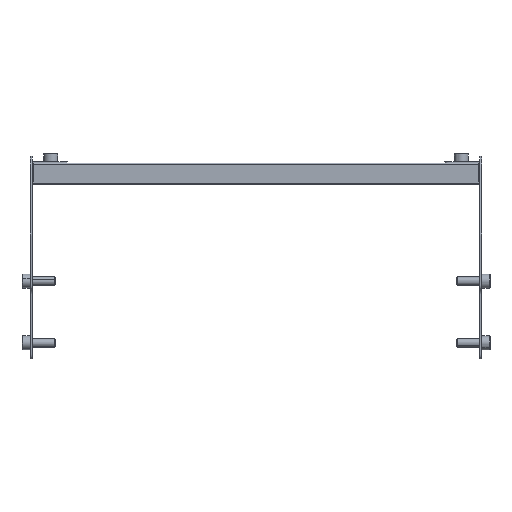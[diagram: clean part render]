
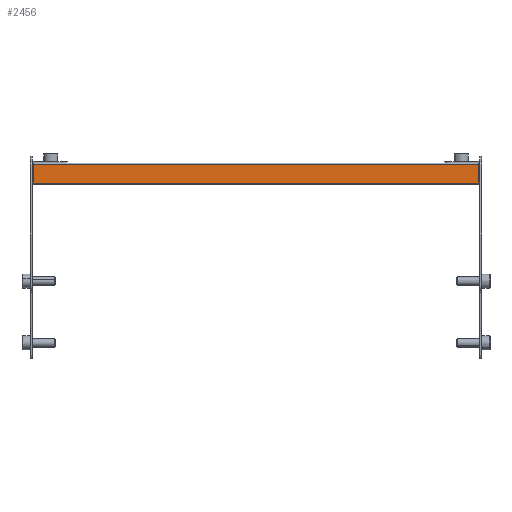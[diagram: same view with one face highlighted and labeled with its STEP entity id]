
A CAD part, front view. The second image highlights one B-rep face of the part: STEP entity #2456.
In plain terms, the highlighted planar face has unit normal (0, -1, 0) as drawn and (1, 0, 0) by its records, which use the part's own axes.
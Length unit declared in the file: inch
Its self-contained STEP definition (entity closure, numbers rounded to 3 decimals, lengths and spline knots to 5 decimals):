
#821=DIRECTION('',(0.,-1.,0.));
#822=VECTOR('',#821,0.53055);
#823=CARTESIAN_POINT('',(0.78127,0.26528,-6.30675));
#824=LINE('',#823,#822);
#1481=DIRECTION('',(0.,0.,-1.));
#1482=VECTOR('',#1481,12.6135);
#1483=CARTESIAN_POINT('',(0.78127,0.26528,6.30675));
#1484=LINE('',#1483,#1482);
#1485=DIRECTION('',(0.,-1.,0.));
#1486=VECTOR('',#1485,0.53055);
#1487=CARTESIAN_POINT('',(0.78127,0.26528,6.30675));
#1488=LINE('',#1487,#1486);
#1489=DIRECTION('',(0.,0.,1.));
#1490=VECTOR('',#1489,12.6135);
#1491=CARTESIAN_POINT('',(0.78127,-0.26528,-6.30675));
#1492=LINE('',#1491,#1490);
#1813=CARTESIAN_POINT('',(0.78127,-0.26528,-6.30675));
#1814=CARTESIAN_POINT('',(0.78127,-0.26528,6.30675));
#1815=VERTEX_POINT('',#1813);
#1816=VERTEX_POINT('',#1814);
#1892=CARTESIAN_POINT('',(0.78127,0.26528,6.30675));
#1893=VERTEX_POINT('',#1892);
#1972=CARTESIAN_POINT('',(0.78127,0.26528,-6.30675));
#1973=VERTEX_POINT('',#1972);
#2444=CARTESIAN_POINT('',(0.78127,0.29528,6.30675));
#2445=DIRECTION('',(-1.,0.,0.));
#2446=DIRECTION('',(0.,0.,1.));
#2447=AXIS2_PLACEMENT_3D('',#2444,#2445,#2446);
#2448=PLANE('',#2447);
#2449=ORIENTED_EDGE('',*,*,#2245,.F.);
#2450=ORIENTED_EDGE('',*,*,#2439,.T.);
#2451=ORIENTED_EDGE('',*,*,#2096,.T.);
#2453=ORIENTED_EDGE('',*,*,#2452,.T.);
#2454=EDGE_LOOP('',(#2449,#2450,#2451,#2453));
#2455=FACE_OUTER_BOUND('',#2454,.F.);
#2096=EDGE_CURVE('',#1973,#1815,#824,.T.);
#2245=EDGE_CURVE('',#1893,#1816,#1488,.T.);
#2439=EDGE_CURVE('',#1893,#1973,#1484,.T.);
#2452=EDGE_CURVE('',#1815,#1816,#1492,.T.);
#2456=ADVANCED_FACE('',(#2455),#2448,.F.);
